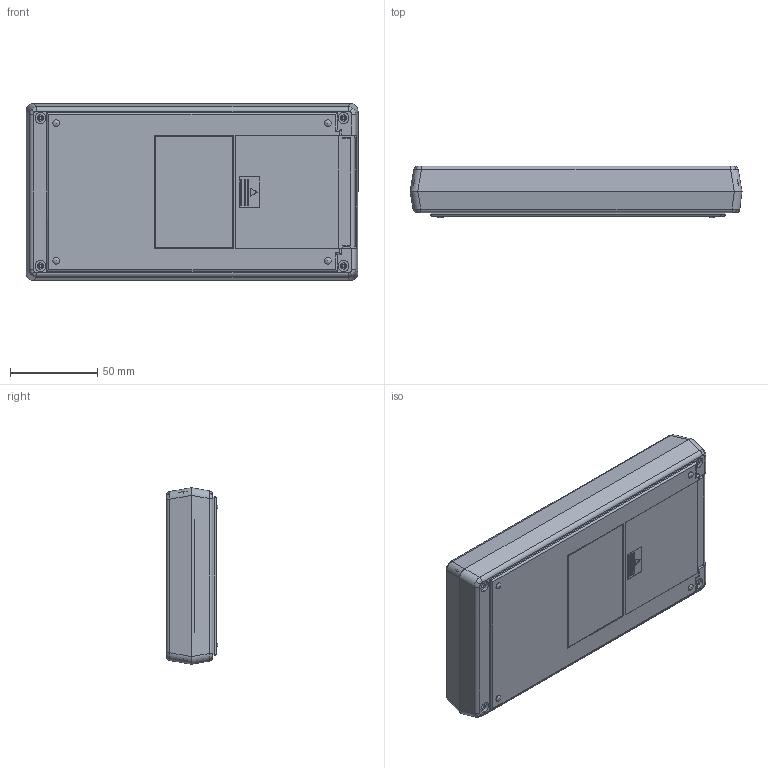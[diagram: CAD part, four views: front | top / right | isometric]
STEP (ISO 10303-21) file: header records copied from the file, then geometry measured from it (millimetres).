
FILE_DESCRIPTION (( 'STEP AP214' ), '1' );
FILE_NAME ('100-41-4A-F.STEP', '2019-11-30T00:06:18', ( 'Rudy' ), ( '' ), 'SwSTEP 2.0', 'SolidWorks 2014', '' );
FILE_SCHEMA (( 'AUTOMOTIVE_DESIGN' ));
Length unit declared in the file: inch
Products named in the file (4): 4AAdoor; 100-04-flush Top; 100-01 BOT-4AA; 100-41-4A-F
Assembly tree (3 placements, depth 2):
  100-41-4A-F
    100-01 BOT-4AA
    100-04-flush Top
    4AAdoor
Bounding box: 190.6 x 29.7 x 101.4 mm (x, y, z)
Volume: 134369.6 mm3; surface area: 124756.4 mm2
Topology: 3 solids, 3 shells, 826 faces, 2239 edges, 1414 vertices
Faces by surface type: plane 540, cylinder 200, bspline 44, cone 26, torus 12, sphere 4
Entity records: 26908 total; most frequent: CARTESIAN_POINT 6631, ORIENTED_EDGE 4398, DIRECTION 3880, EDGE_CURVE 2199, VECTOR 1658, LINE 1658, VERTEX_POINT 1406, AXIS2_PLACEMENT_3D 1111
